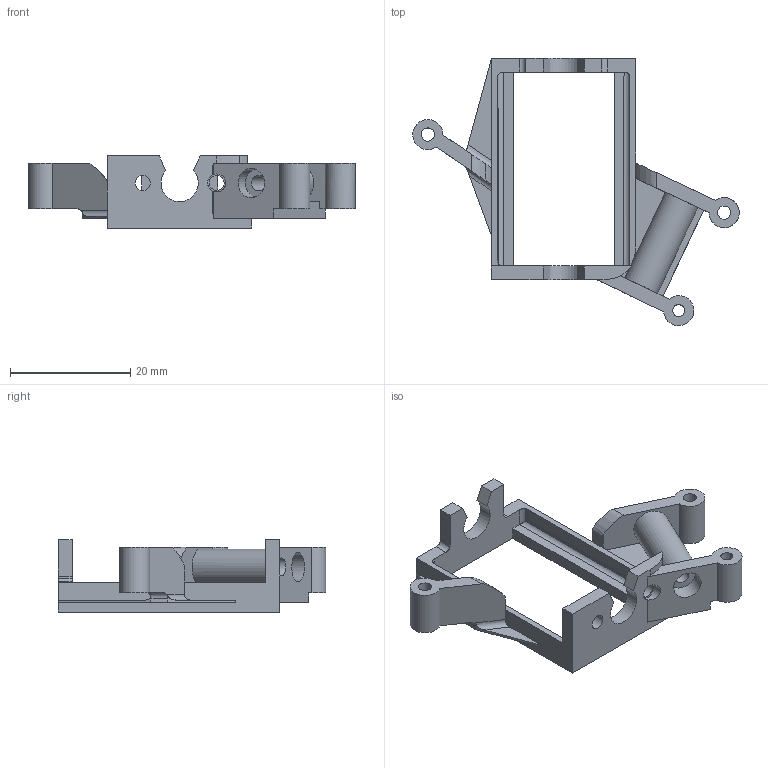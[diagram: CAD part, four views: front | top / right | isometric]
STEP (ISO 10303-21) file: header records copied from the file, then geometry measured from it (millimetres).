
FILE_DESCRIPTION(('Open CASCADE Model'),'2;1');
FILE_NAME('Open CASCADE Shape Model','2026-10-26T17:28:43',('Author'),( 'Open CASCADE'),'Open CASCADE STEP processor 7.9','Open CASCADE 7.9' ,'Unknown');
FILE_SCHEMA(('AUTOMOTIVE_DESIGN { 1 0 10303 214 1 1 1 1 }'));
Length unit declared in the file: millimetre
Products named in the file (1): Open CASCADE STEP translator 7.9 1
Bounding box: 54.26 x 44.43 x 12 mm (x, y, z)
Volume: 3285 mm3; surface area: 4303.3 mm2
Topology: 1 solids, 1 shells, 104 faces, 288 edges, 186 vertices
Faces by surface type: plane 72, cylinder 25, bspline 7
Full cylindrical faces by diameter (mm): 2 x1, 2.2 x2, 2.5 x2, 2.6 x1, 3 x1, 4.85 x2
Entity records: 12642 total; most frequent: CARTESIAN_POINT 7333, DIRECTION 822, ORIENTED_EDGE 576, PCURVE 576, DEFINITIONAL_REPRESENTATION 576, LINE 540, VECTOR 540, EDGE_CURVE 288
